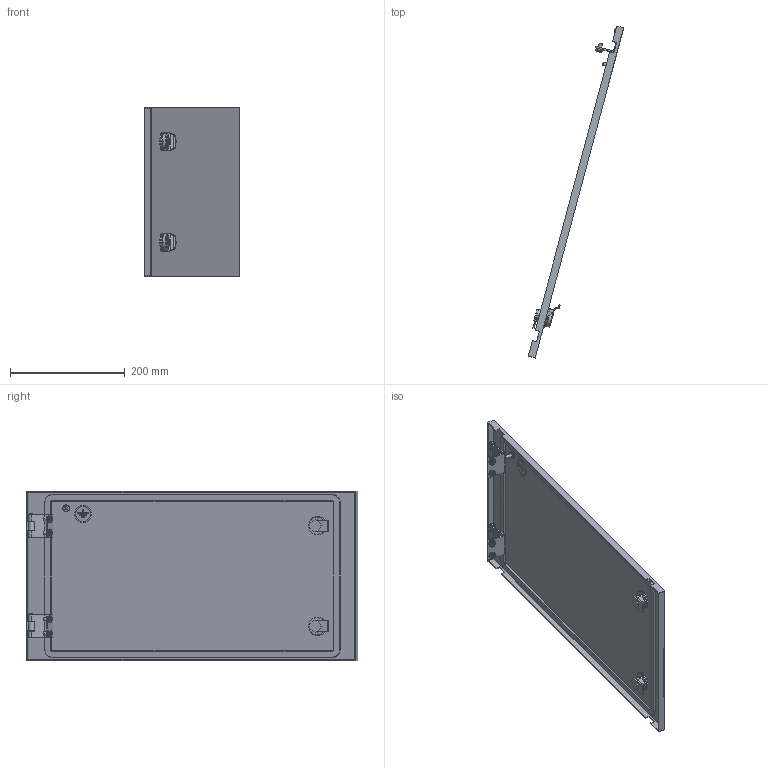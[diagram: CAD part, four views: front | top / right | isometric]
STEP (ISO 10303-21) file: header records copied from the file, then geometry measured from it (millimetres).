
FILE_DESCRIPTION (( 'STEP AP214' ), '1' );
FILE_NAME ('FO-00-ESD-030-060 Äâåðü ñåêöèîííàÿ âíåøíÿÿ 300x600 ìì.STEP', '2025-08-20T06:15:54', ( '' ), ( '' ), 'SwSTEP 2.0', 'SolidWorks 2023', '' );
FILE_SCHEMA (( 'AUTOMOTIVE_DESIGN' ));
Length unit declared in the file: millimetre
Products named in the file (4): FO-00-ESD-030-060 Дверь секционная внешняя 300x600 мм; FO-00-ESD-030-060 Дверь секционная внешняя 300×600 мм.STEP; Петля.STEP; FO-00-ESD-030-060 Дверь секционная внешняя 300x600 мм.STEP
Assembly tree (4 placements, depth 3):
  FO-00-ESD-030-060 Дверь секционная внешняя 300x600 мм
    FO-00-ESD-030-060 Дверь секционная внешняя 300x600 мм.STEP
      FO-00-ESD-030-060 Дверь секционная внешняя 300×600 мм.STEP
      Петля.STEP  x2
Bounding box: 165.93 x 578 x 296 mm (x, y, z)
Volume: 498468.1 mm3; surface area: 429132.1 mm2
Topology: 3 solids, 12 shells, 707 faces, 1809 edges, 1168 vertices
Faces by surface type: plane 343, cylinder 268, torus 34, cone 32, bspline 30
Entity records: 20694 total; most frequent: CARTESIAN_POINT 5778, ORIENTED_EDGE 3108, DIRECTION 3078, EDGE_CURVE 1554, AXIS2_PLACEMENT_3D 1056, VERTEX_POINT 1006, VECTOR 966, LINE 966
